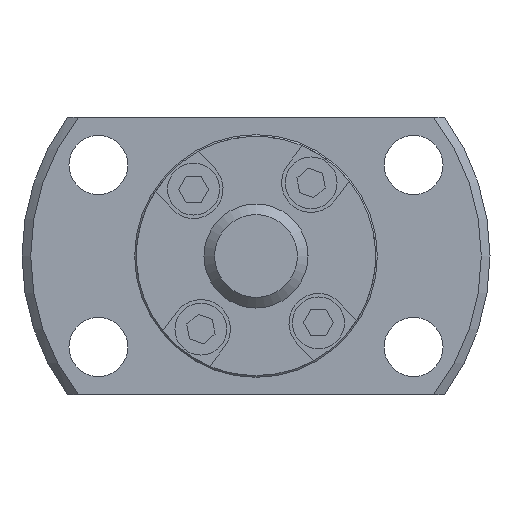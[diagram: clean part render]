
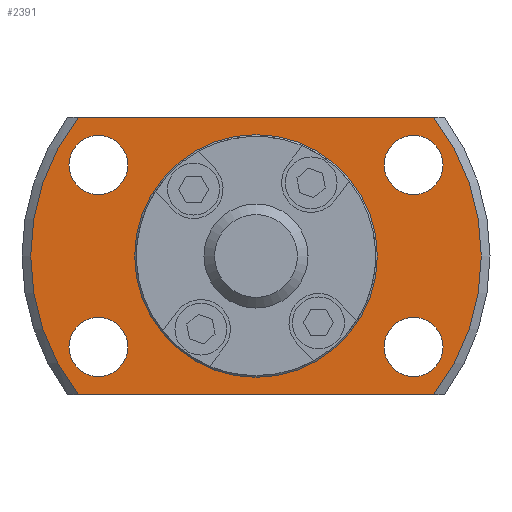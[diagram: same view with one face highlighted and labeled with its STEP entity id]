
A CAD part, left-side view. The second image highlights one B-rep face of the part: STEP entity #2391.
In plain terms, the highlighted planar face has unit normal (-1, 0, 0).
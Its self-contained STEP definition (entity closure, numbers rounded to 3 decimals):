
#113=LINE('',#3787,#337);
#114=LINE('',#3791,#338);
#337=VECTOR('',#3029,1000.);
#338=VECTOR('',#3032,1000.);
#689=ORIENTED_EDGE('',*,*,#1303,.F.);
#690=ORIENTED_EDGE('',*,*,#1304,.F.);
#691=ORIENTED_EDGE('',*,*,#1305,.F.);
#692=ORIENTED_EDGE('',*,*,#1306,.F.);
#693=ORIENTED_EDGE('',*,*,#1259,.F.);
#694=ORIENTED_EDGE('',*,*,#1307,.T.);
#695=ORIENTED_EDGE('',*,*,#1308,.F.);
#696=ORIENTED_EDGE('',*,*,#1309,.T.);
#697=ORIENTED_EDGE('',*,*,#1302,.T.);
#1259=EDGE_CURVE('',#1579,#1580,#1758,.T.);
#1302=EDGE_CURVE('',#1617,#1617,#1780,.T.);
#1303=EDGE_CURVE('',#1618,#1618,#1781,.F.);
#1304=EDGE_CURVE('',#1619,#1619,#1782,.F.);
#1305=EDGE_CURVE('',#1620,#1620,#1783,.F.);
#1306=EDGE_CURVE('',#1621,#1621,#1784,.F.);
#1307=EDGE_CURVE('',#1579,#1622,#113,.T.);
#1308=EDGE_CURVE('',#1623,#1622,#1785,.T.);
#1309=EDGE_CURVE('',#1623,#1580,#114,.T.);
#1579=VERTEX_POINT('',#3677);
#1580=VERTEX_POINT('',#3679);
#1617=VERTEX_POINT('',#3777);
#1618=VERTEX_POINT('',#3780);
#1619=VERTEX_POINT('',#3782);
#1620=VERTEX_POINT('',#3784);
#1621=VERTEX_POINT('',#3786);
#1622=VERTEX_POINT('',#3788);
#1623=VERTEX_POINT('',#3790);
#1758=CIRCLE('',#2583,13.);
#1780=CIRCLE('',#2614,6.8);
#1781=CIRCLE('',#2616,1.7);
#1782=CIRCLE('',#2617,1.7);
#1783=CIRCLE('',#2618,1.7);
#1784=CIRCLE('',#2619,1.7);
#1785=CIRCLE('',#2620,13.);
#1888=EDGE_LOOP('',(#689));
#1889=EDGE_LOOP('',(#690));
#1890=EDGE_LOOP('',(#691));
#1891=EDGE_LOOP('',(#692));
#1892=EDGE_LOOP('',(#693,#694,#695,#696));
#1893=EDGE_LOOP('',(#697));
#2100=FACE_BOUND('',#1888,.T.);
#2101=FACE_BOUND('',#1889,.T.);
#2102=FACE_BOUND('',#1890,.T.);
#2103=FACE_BOUND('',#1891,.T.);
#2104=FACE_BOUND('',#1892,.T.);
#2105=FACE_BOUND('',#1893,.T.);
#2269=PLANE('',#2615);
#2391=ADVANCED_FACE('',(#2100,#2101,#2102,#2103,#2104,#2105),#2269,.F.);
#2583=AXIS2_PLACEMENT_3D('',#3678,#2937,#2938);
#2614=AXIS2_PLACEMENT_3D('',#3776,#3017,#3018);
#2615=AXIS2_PLACEMENT_3D('',#3778,#3019,#3020);
#2616=AXIS2_PLACEMENT_3D('',#3779,#3021,#3022);
#2617=AXIS2_PLACEMENT_3D('',#3781,#3023,#3024);
#2618=AXIS2_PLACEMENT_3D('',#3783,#3025,#3026);
#2619=AXIS2_PLACEMENT_3D('',#3785,#3027,#3028);
#2620=AXIS2_PLACEMENT_3D('',#3789,#3030,#3031);
#2937=DIRECTION('',(1.,0.,0.));
#2938=DIRECTION('',(0.,0.,-1.));
#3017=DIRECTION('',(1.,0.,0.));
#3018=DIRECTION('',(0.,0.,-1.));
#3019=DIRECTION('',(1.,0.,0.));
#3020=DIRECTION('',(0.,0.,-1.));
#3021=DIRECTION('',(1.,0.,0.));
#3022=DIRECTION('',(0.,0.,-1.));
#3023=DIRECTION('',(1.,0.,0.));
#3024=DIRECTION('',(0.,0.,-1.));
#3025=DIRECTION('',(1.,0.,0.));
#3026=DIRECTION('',(0.,0.,-1.));
#3027=DIRECTION('',(1.,0.,0.));
#3028=DIRECTION('',(0.,0.,-1.));
#3029=DIRECTION('',(0.,-1.,0.));
#3030=DIRECTION('',(1.,0.,0.));
#3031=DIRECTION('',(0.,0.,-1.));
#3032=DIRECTION('',(0.,1.,0.));
#3677=CARTESIAN_POINT('',(11.5,10.247,-8.));
#3678=CARTESIAN_POINT('',(11.5,0.,0.));
#3679=CARTESIAN_POINT('',(11.5,10.247,8.));
#3776=CARTESIAN_POINT('',(11.5,0.,0.));
#3777=CARTESIAN_POINT('',(11.5,0.,-6.8));
#3778=CARTESIAN_POINT('',(11.5,6.8,0.));
#3779=CARTESIAN_POINT('',(11.5,-9.093,-5.25));
#3780=CARTESIAN_POINT('',(11.5,-9.093,-6.95));
#3781=CARTESIAN_POINT('',(11.5,-9.093,5.25));
#3782=CARTESIAN_POINT('',(11.5,-9.093,3.55));
#3783=CARTESIAN_POINT('',(11.5,9.093,-5.25));
#3784=CARTESIAN_POINT('',(11.5,9.093,-6.95));
#3785=CARTESIAN_POINT('',(11.5,9.093,5.25));
#3786=CARTESIAN_POINT('',(11.5,9.093,3.55));
#3787=CARTESIAN_POINT('',(11.5,6.8,-8.));
#3788=CARTESIAN_POINT('',(11.5,-10.247,-8.));
#3789=CARTESIAN_POINT('',(11.5,0.,0.));
#3790=CARTESIAN_POINT('',(11.5,-10.247,8.));
#3791=CARTESIAN_POINT('',(11.5,6.8,8.));
